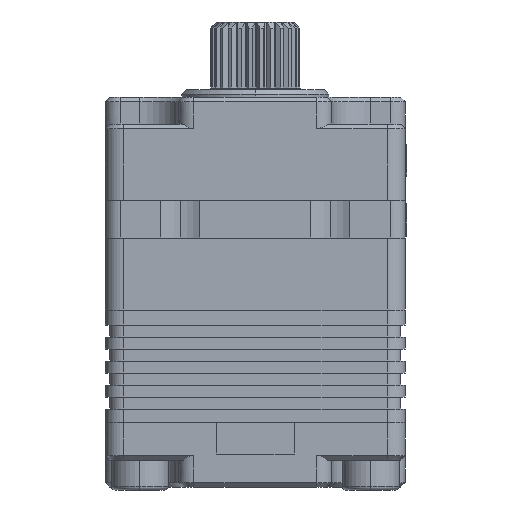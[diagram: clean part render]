
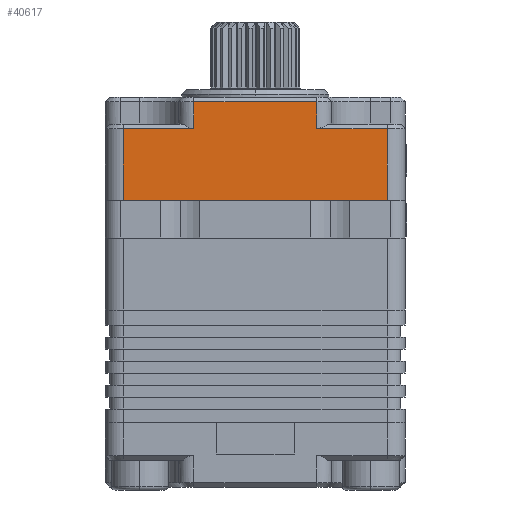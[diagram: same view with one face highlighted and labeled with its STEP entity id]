
A CAD part, left-side view. The second image highlights one B-rep face of the part: STEP entity #40617.
In plain terms, the highlighted planar face has unit normal (-1, 0, 0).
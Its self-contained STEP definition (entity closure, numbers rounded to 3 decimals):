
#159 = ORIENTED_EDGE ( 'NONE', *, *, #29257, .T. ) ;
#301 = CARTESIAN_POINT ( 'NONE',  ( -139.964, -22.105, 91.336 ) ) ;
#1418 = FACE_OUTER_BOUND ( 'NONE', #4450, .T. ) ;
#2800 = CARTESIAN_POINT ( 'NONE',  ( -139.964, -9.205, 91.336 ) ) ;
#2914 = VECTOR ( 'NONE', #11023, 1000. ) ;
#4450 = EDGE_LOOP ( 'NONE', ( #46889, #15261, #21908, #6255, #10314, #26444, #31804, #159 ) ) ;
#5094 = CARTESIAN_POINT ( 'NONE',  ( -139.964, -13.905, 93.136 ) ) ;
#6106 = VECTOR ( 'NONE', #25522, 1000. ) ;
#6136 = VERTEX_POINT ( 'NONE', #5094 ) ;
#6255 = ORIENTED_EDGE ( 'NONE', *, *, #17359, .T. ) ;
#6290 = CARTESIAN_POINT ( 'NONE',  ( -139.964, -23.105, 91.336 ) ) ;
#6727 = DIRECTION ( 'NONE',  ( 0., 1., 0. ) ) ;
#7856 = PLANE ( 'NONE',  #30727 ) ;
#9269 = DIRECTION ( 'NONE',  ( 0., 0., -1. ) ) ;
#9397 = DIRECTION ( 'NONE',  ( 0., 1., 0. ) ) ;
#9624 = CARTESIAN_POINT ( 'NONE',  ( -139.964, -26.805, 86.536 ) ) ;
#9669 = VECTOR ( 'NONE', #41842, 1000. ) ;
#10314 = ORIENTED_EDGE ( 'NONE', *, *, #33168, .F. ) ;
#10618 = LINE ( 'NONE', #47876, #32694 ) ;
#10813 = DIRECTION ( 'NONE',  ( 0., 1., 0. ) ) ;
#11023 = DIRECTION ( 'NONE',  ( 0., 1., 0. ) ) ;
#13135 = LINE ( 'NONE', #2800, #2914 ) ;
#13968 = CARTESIAN_POINT ( 'NONE',  ( -139.964, -7.505, 86.536 ) ) ;
#14475 = LINE ( 'NONE', #22046, #6106 ) ;
#14815 = CARTESIAN_POINT ( 'NONE',  ( -139.964, -26.805, 91.336 ) ) ;
#15261 = ORIENTED_EDGE ( 'NONE', *, *, #22066, .T. ) ;
#15802 = LINE ( 'NONE', #31746, #27092 ) ;
#15889 = VERTEX_POINT ( 'NONE', #301 ) ;
#17359 = EDGE_CURVE ( 'NONE', #32657, #31274, #13135, .T. ) ;
#18204 = EDGE_CURVE ( 'NONE', #6136, #32657, #48222, .T. ) ;
#18960 = VECTOR ( 'NONE', #6727, 1000. ) ;
#19207 = EDGE_CURVE ( 'NONE', #15889, #20836, #15802, .T. ) ;
#19255 = LINE ( 'NONE', #6290, #21636 ) ;
#19853 = DIRECTION ( 'NONE',  ( 0., 0., -1. ) ) ;
#20026 = DIRECTION ( 'NONE',  ( 1., 0., 0. ) ) ;
#20836 = VERTEX_POINT ( 'NONE', #21699 ) ;
#21636 = VECTOR ( 'NONE', #10813, 1000. ) ;
#21699 = CARTESIAN_POINT ( 'NONE',  ( -139.964, -22.105, 93.136 ) ) ;
#21908 = ORIENTED_EDGE ( 'NONE', *, *, #18204, .T. ) ;
#22046 = CARTESIAN_POINT ( 'NONE',  ( -139.964, -9.205, 80.136 ) ) ;
#22066 = EDGE_CURVE ( 'NONE', #20836, #6136, #10618, .T. ) ;
#25522 = DIRECTION ( 'NONE',  ( 0., 0., 1. ) ) ;
#26444 = ORIENTED_EDGE ( 'NONE', *, *, #48573, .F. ) ;
#27092 = VECTOR ( 'NONE', #43233, 1000. ) ;
#28399 = CARTESIAN_POINT ( 'NONE',  ( -139.964, -13.905, 91.336 ) ) ;
#29257 = EDGE_CURVE ( 'NONE', #42955, #15889, #19255, .T. ) ;
#30727 = AXIS2_PLACEMENT_3D ( 'NONE', #34708, #20026, #19853 ) ;
#31274 = VERTEX_POINT ( 'NONE', #42227 ) ;
#31746 = CARTESIAN_POINT ( 'NONE',  ( -139.964, -22.105, 93.436 ) ) ;
#31804 = ORIENTED_EDGE ( 'NONE', *, *, #33246, .F. ) ;
#32657 = VERTEX_POINT ( 'NONE', #41263 ) ;
#32694 = VECTOR ( 'NONE', #9397, 1000. ) ;
#33168 = EDGE_CURVE ( 'NONE', #42028, #31274, #14475, .T. ) ;
#33246 = EDGE_CURVE ( 'NONE', #42955, #48170, #47840, .T. ) ;
#33267 = LINE ( 'NONE', #13968, #18960 ) ;
#34708 = CARTESIAN_POINT ( 'NONE',  ( -139.964, -7.505, 71.636 ) ) ;
#34920 = CARTESIAN_POINT ( 'NONE',  ( -139.964, -9.205, 86.536 ) ) ;
#40617 = ADVANCED_FACE ( 'NONE', ( #1418 ), #7856, .F. ) ;
#41263 = CARTESIAN_POINT ( 'NONE',  ( -139.964, -13.905, 91.336 ) ) ;
#41842 = DIRECTION ( 'NONE',  ( 0., 0., -1. ) ) ;
#42028 = VERTEX_POINT ( 'NONE', #34920 ) ;
#42227 = CARTESIAN_POINT ( 'NONE',  ( -139.964, -9.205, 91.336 ) ) ;
#42955 = VERTEX_POINT ( 'NONE', #14815 ) ;
#43233 = DIRECTION ( 'NONE',  ( 0., 0., 1. ) ) ;
#44571 = CARTESIAN_POINT ( 'NONE',  ( -139.964, -26.805, 80.136 ) ) ;
#45221 = VECTOR ( 'NONE', #9269, 1000. ) ;
#46889 = ORIENTED_EDGE ( 'NONE', *, *, #19207, .T. ) ;
#47840 = LINE ( 'NONE', #44571, #9669 ) ;
#47876 = CARTESIAN_POINT ( 'NONE',  ( -139.964, -13.905, 93.136 ) ) ;
#48170 = VERTEX_POINT ( 'NONE', #9624 ) ;
#48222 = LINE ( 'NONE', #28399, #45221 ) ;
#48573 = EDGE_CURVE ( 'NONE', #48170, #42028, #33267, .T. ) ;
